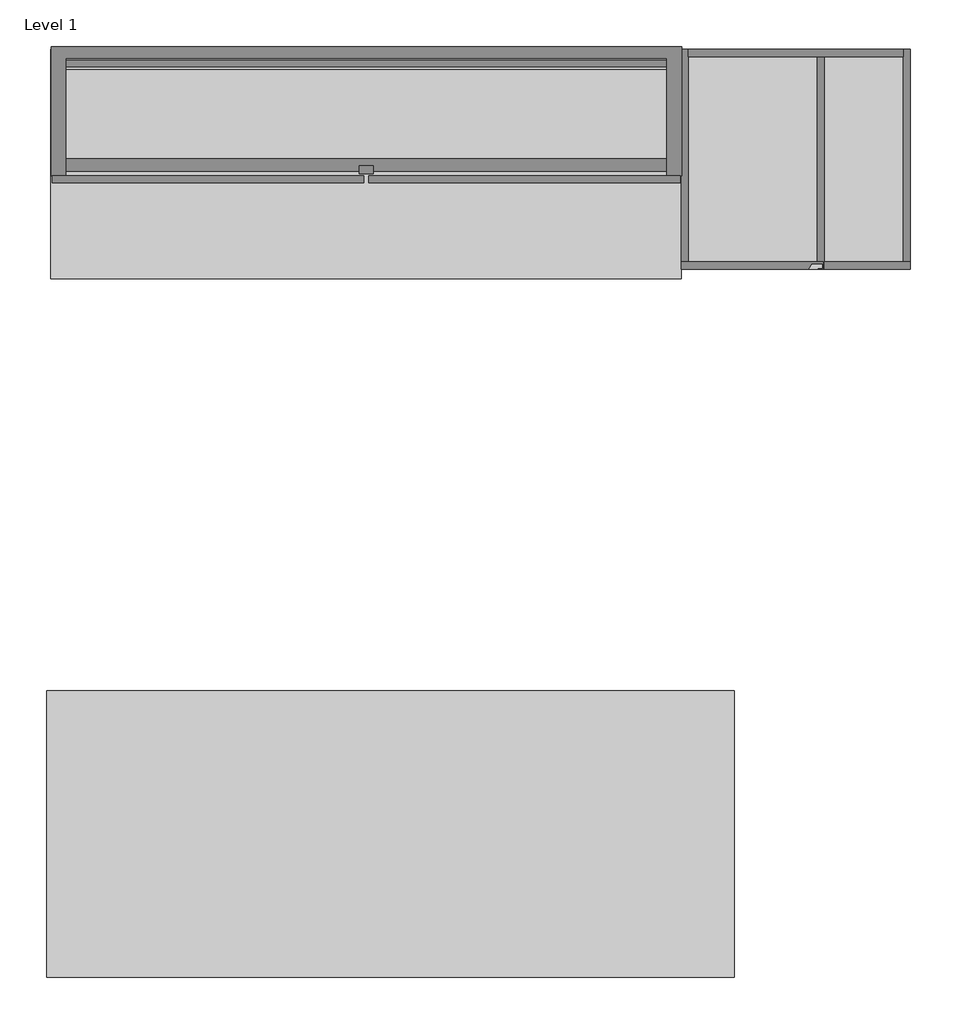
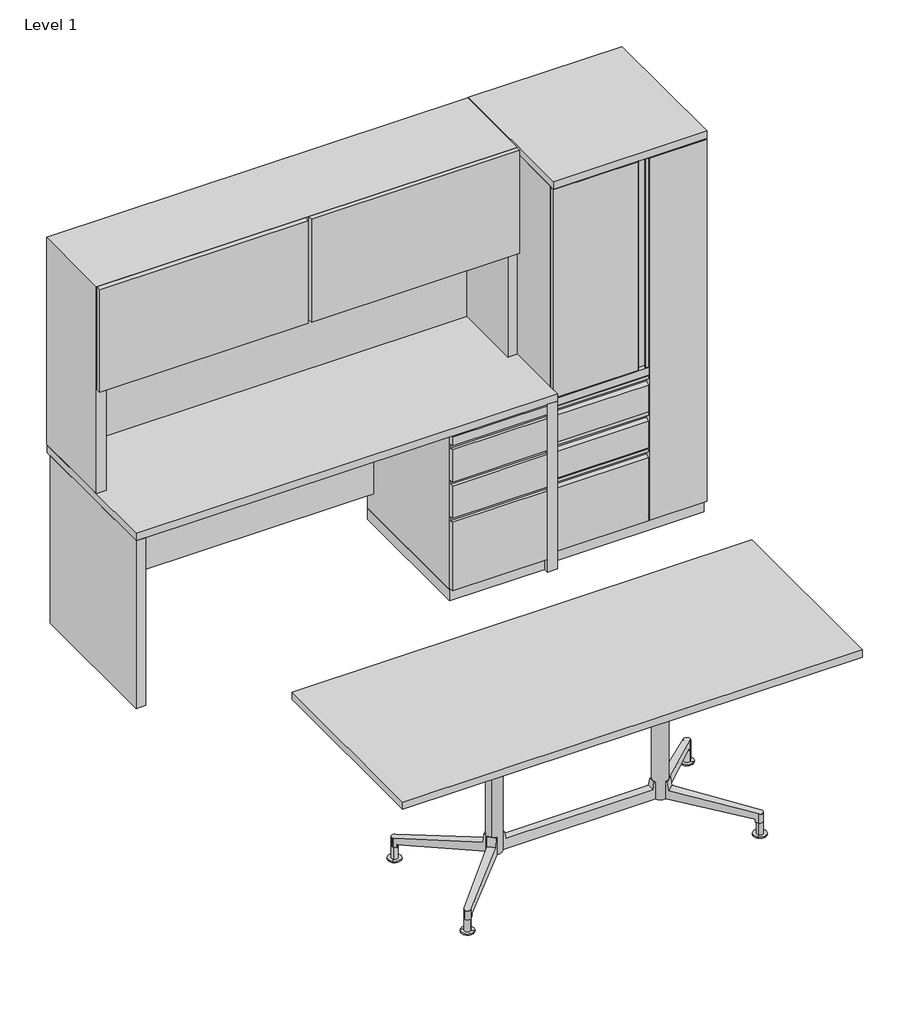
# One storey, incomplete: 5 furniture elements.
"""IFC4 building model written with IfcOpenShell, lengths in millimetres."""

from ifc_helpers import new_model, si_unit, origin, place, context, project, spatial, transform, mapped, element, save
from components import furniture_912c82ef, furniture_e20300f5, furniture_ff569894, file_file_upper_door_719a74f5, haworth_jivetable_rectangle_bases_99646251

model = new_model("IFC4")

# Units and contexts
model_context = context("Model", 3, world=origin())
ifc_project = project(units=[si_unit("LENGTHUNIT", "METRE", prefix="MILLI")], contexts=[model_context])

# Site, building, storey
site = spatial("IfcSite", under=ifc_project)
building = spatial("IfcBuilding", under=site)
storey = spatial("IfcBuildingStorey", under=building, Name="Level 1", Elevation=0.0)

# Furniture
placement = place(None, origin())
furniture_shape = furniture_912c82ef(model_context)
element("IfcFurniture", 1, ObjectType="Haworth_XSeries_VerticalStorage : 14d 34h 66w - Flipper Doors", at=placement, inside=storey, context=model_context, shape_type="MappedRepresentation", body=[
    mapped(furniture_shape, transform((-4363.5394846, 1753.0603751, 0.0), x_axis=(1.0, 0.0, 0.0), y_axis=(0.0, 1.0, 0.0), z_axis=(0.0, 0.0, 1.0))),
])
furniture_2_shape = furniture_e20300f5(model_context)
element("IfcFurniture", 2, ObjectType="Haworth_XSeries_DeskShell : 24d 66w 29h - 3/4 Modesty Panel", at=placement, inside=storey, context=model_context, shape_type="MappedRepresentation", body=[
    mapped(furniture_2_shape, transform((-4861.1041948, 1999.4466938, 0.0), x_axis=(1.0, 0.0, 0.0), y_axis=(0.0, 1.0, 0.0), z_axis=(0.0, 0.0, 1.0))),
])
furniture_3_shape = furniture_ff569894(model_context)
element("IfcFurniture", 3, ObjectType="Haworth_XSeries_Pedestal : 23d 15w 27h - Box Box File - Suspended", at=placement, inside=storey, context=model_context, shape_type="MappedRepresentation", body=[
    mapped(furniture_3_shape, transform((-3511.9015184, 1720.3104346, 0.0), x_axis=(1.0, 0.0, 0.0), y_axis=(0.0, 1.0, 0.0), z_axis=(0.0, 0.0, 1.0))),
])
file_file_upper_door_shape = file_file_upper_door_719a74f5(model_context)
element("IfcFurniture", 4, ObjectType="Haworth_VSeries_StorageTower_5High : File File - Upper Door", at=placement, inside=storey, context=model_context, shape_type="MappedRepresentation", body=[
    mapped(file_file_upper_door_shape, transform((-2980.739441, 1745.4466938, 0.0), x_axis=(1.0, 0.0, 0.0), y_axis=(0.0, 1.0, 0.0), z_axis=(0.0, 0.0, 1.0))),
])
haworth_jivetable_rectangle_bases_shape = haworth_jivetable_rectangle_bases_99646251(model_context)
element("IfcFurniture", 5, ObjectType="Haworth_JiveTable_Rectangle_Bases : 30d 72w 29h - Bridge Base - With Glides", at=placement, inside=storey, context=model_context, shape_type="MappedRepresentation", body=[
    mapped(haworth_jivetable_rectangle_bases_shape, transform((-4058.047522, -340.6981743, 0.0), x_axis=(1.0, 0.0, 0.0), y_axis=(0.0, 1.0, 0.0), z_axis=(0.0, 0.0, 1.0))),
])

save(model, "model.ifc")
